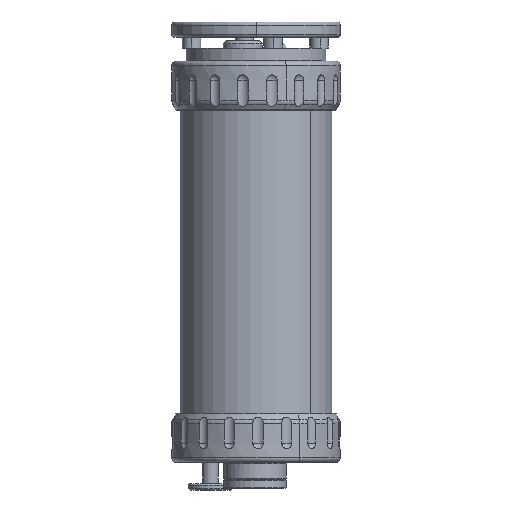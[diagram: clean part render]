
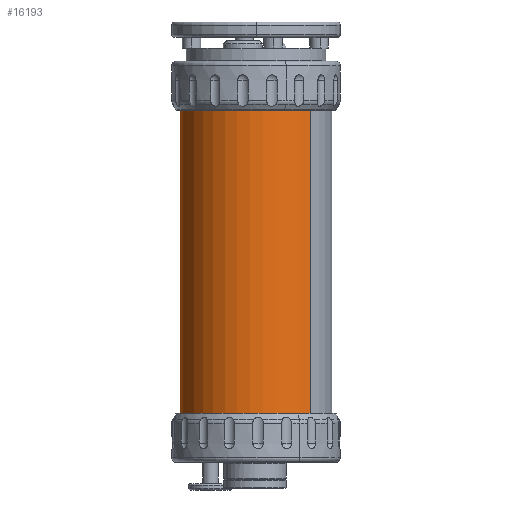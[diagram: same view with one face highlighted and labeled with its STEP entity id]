
A CAD part, left-side view. The second image highlights one B-rep face of the part: STEP entity #16193.
In plain terms, the highlighted cylindrical face has radius 49.5 mm (diameter 99 mm), a partial arc.
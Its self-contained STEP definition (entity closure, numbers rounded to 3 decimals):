
#12 = DIRECTION ( 'NONE',  ( 0., 0., 1. ) ) ;
#409 = CARTESIAN_POINT ( 'NONE',  ( 91.51, 31.462, -133.224 ) ) ;
#2054 = EDGE_CURVE ( 'NONE', #41323, #27482, #22402, .T. ) ;
#2646 = EDGE_CURVE ( 'NONE', #8642, #3250, #6032, .T. ) ;
#3250 = VERTEX_POINT ( 'NONE', #24613 ) ;
#4005 = AXIS2_PLACEMENT_3D ( 'NONE', #16067, #12, #13009 ) ;
#4934 = EDGE_LOOP ( 'NONE', ( #28569, #35549, #16707, #15927 ) ) ;
#5299 = DIRECTION ( 'NONE',  ( -0.7, -0.714, 0. ) ) ;
#5512 = CARTESIAN_POINT ( 'NONE',  ( 22.177, -39.207, -286.58 ) ) ;
#6032 = LINE ( 'NONE', #409, #27094 ) ;
#6582 = EDGE_CURVE ( 'NONE', #3250, #27482, #33280, .T. ) ;
#7588 = AXIS2_PLACEMENT_3D ( 'NONE', #13660, #23325, #11691 ) ;
#8642 = VERTEX_POINT ( 'NONE', #12100 ) ;
#11691 = DIRECTION ( 'NONE',  ( -0.7, -0.714, 0. ) ) ;
#12100 = CARTESIAN_POINT ( 'NONE',  ( 91.51, 31.462, -286.58 ) ) ;
#13009 = DIRECTION ( 'NONE',  ( -0.7, -0.714, 0. ) ) ;
#13558 = CARTESIAN_POINT ( 'NONE',  ( 22.177, -39.207, -133.224 ) ) ;
#13660 = CARTESIAN_POINT ( 'NONE',  ( 56.844, -3.873, -133.224 ) ) ;
#14910 = EDGE_CURVE ( 'NONE', #8642, #41323, #39055, .T. ) ;
#15927 = ORIENTED_EDGE ( 'NONE', *, *, #6582, .F. ) ;
#16067 = CARTESIAN_POINT ( 'NONE',  ( 56.844, -3.873, -84.08 ) ) ;
#16193 = ADVANCED_FACE ( 'NONE', ( #41611 ), #18500, .T. ) ;
#16707 = ORIENTED_EDGE ( 'NONE', *, *, #2054, .T. ) ;
#18500 = CYLINDRICAL_SURFACE ( 'NONE', #7588, 49.5 ) ;
#22402 = LINE ( 'NONE', #13558, #38549 ) ;
#22610 = AXIS2_PLACEMENT_3D ( 'NONE', #40718, #33680, #5299 ) ;
#23325 = DIRECTION ( 'NONE',  ( 0., 0., 1. ) ) ;
#24613 = CARTESIAN_POINT ( 'NONE',  ( 91.51, 31.462, -84.08 ) ) ;
#27094 = VECTOR ( 'NONE', #39798, 1000. ) ;
#27482 = VERTEX_POINT ( 'NONE', #36906 ) ;
#28569 = ORIENTED_EDGE ( 'NONE', *, *, #2646, .F. ) ;
#33280 = CIRCLE ( 'NONE', #4005, 49.5 ) ;
#33680 = DIRECTION ( 'NONE',  ( 0., 0., 1. ) ) ;
#35549 = ORIENTED_EDGE ( 'NONE', *, *, #14910, .T. ) ;
#36906 = CARTESIAN_POINT ( 'NONE',  ( 22.177, -39.207, -84.08 ) ) ;
#38549 = VECTOR ( 'NONE', #39293, 1000. ) ;
#39055 = CIRCLE ( 'NONE', #22610, 49.5 ) ;
#39293 = DIRECTION ( 'NONE',  ( 0., 0., 1. ) ) ;
#39798 = DIRECTION ( 'NONE',  ( 0., 0., 1. ) ) ;
#40718 = CARTESIAN_POINT ( 'NONE',  ( 56.844, -3.873, -286.58 ) ) ;
#41323 = VERTEX_POINT ( 'NONE', #5512 ) ;
#41611 = FACE_OUTER_BOUND ( 'NONE', #4934, .T. ) ;
